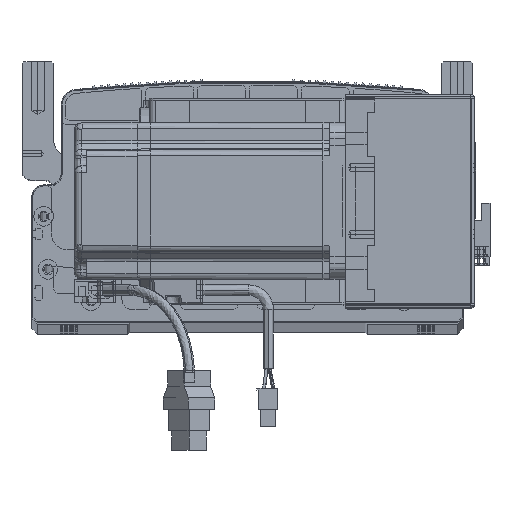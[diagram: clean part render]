
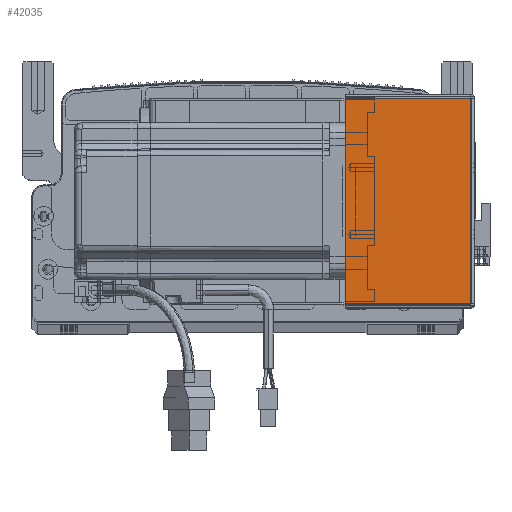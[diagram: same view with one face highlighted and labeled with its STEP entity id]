
A CAD part, top view. The second image highlights one B-rep face of the part: STEP entity #42035.
In plain terms, the highlighted planar face has unit normal (0, 0, 1) as drawn and (0, 0, -1) by its records, which use the part's own axes.
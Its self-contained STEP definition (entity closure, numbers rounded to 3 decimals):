
#1256 = CARTESIAN_POINT ( 'NONE',  ( 0.737, 105.293, -205.5 ) ) ;
#1755 = EDGE_CURVE ( 'NONE', #89240, #35645, #40160, .T. ) ;
#1973 = DIRECTION ( 'NONE',  ( 0., 0., 1. ) ) ;
#4272 = VECTOR ( 'NONE', #7099, 1000. ) ;
#7099 = DIRECTION ( 'NONE',  ( 0., -1., 0. ) ) ;
#12643 = VECTOR ( 'NONE', #95639, 1000. ) ;
#17096 = DIRECTION ( 'NONE',  ( 1., 0., 0. ) ) ;
#17582 = ORIENTED_EDGE ( 'NONE', *, *, #83457, .T. ) ;
#29363 = FACE_OUTER_BOUND ( 'NONE', #84478, .T. ) ;
#29656 = DIRECTION ( 'NONE',  ( 1., 0., 0. ) ) ;
#31833 = LINE ( 'NONE', #74605, #4272 ) ;
#35645 = VERTEX_POINT ( 'NONE', #88361 ) ;
#40160 = LINE ( 'NONE', #78947, #12643 ) ;
#42035 = ADVANCED_FACE ( 'NONE', ( #29363 ), #70797, .F. ) ;
#43909 = EDGE_CURVE ( 'NONE', #35645, #97744, #60020, .T. ) ;
#45174 = LINE ( 'NONE', #67335, #53533 ) ;
#46311 = AXIS2_PLACEMENT_3D ( 'NONE', #86162, #1973, #17096 ) ;
#53047 = CARTESIAN_POINT ( 'NONE',  ( 64.5, 105.293, -205.5 ) ) ;
#53533 = VECTOR ( 'NONE', #29656, 1000. ) ;
#54083 = VECTOR ( 'NONE', #64458, 1000. ) ;
#55556 = EDGE_CURVE ( 'NONE', #89240, #57602, #45174, .T. ) ;
#57602 = VERTEX_POINT ( 'NONE', #53047 ) ;
#59488 = ORIENTED_EDGE ( 'NONE', *, *, #1755, .F. ) ;
#60020 = LINE ( 'NONE', #87146, #54083 ) ;
#64458 = DIRECTION ( 'NONE',  ( 1., 0., 0. ) ) ;
#67335 = CARTESIAN_POINT ( 'NONE',  ( 0., 105.293, -205.5 ) ) ;
#70797 = PLANE ( 'NONE',  #46311 ) ;
#74605 = CARTESIAN_POINT ( 'NONE',  ( 64.5, 0., -205.5 ) ) ;
#76690 = CARTESIAN_POINT ( 'NONE',  ( 64.5, 0.707, -205.5 ) ) ;
#78947 = CARTESIAN_POINT ( 'NONE',  ( 0.737, 0., -205.5 ) ) ;
#83457 = EDGE_CURVE ( 'NONE', #57602, #97744, #31833, .T. ) ;
#84478 = EDGE_LOOP ( 'NONE', ( #59488, #86411, #17582, #86466 ) ) ;
#86162 = CARTESIAN_POINT ( 'NONE',  ( 0., 0., -205.5 ) ) ;
#86411 = ORIENTED_EDGE ( 'NONE', *, *, #55556, .T. ) ;
#86466 = ORIENTED_EDGE ( 'NONE', *, *, #43909, .F. ) ;
#87146 = CARTESIAN_POINT ( 'NONE',  ( 0., 0.707, -205.5 ) ) ;
#88361 = CARTESIAN_POINT ( 'NONE',  ( 0.737, 0.707, -205.5 ) ) ;
#89240 = VERTEX_POINT ( 'NONE', #1256 ) ;
#95639 = DIRECTION ( 'NONE',  ( 0., -1., 0. ) ) ;
#97744 = VERTEX_POINT ( 'NONE', #76690 ) ;
